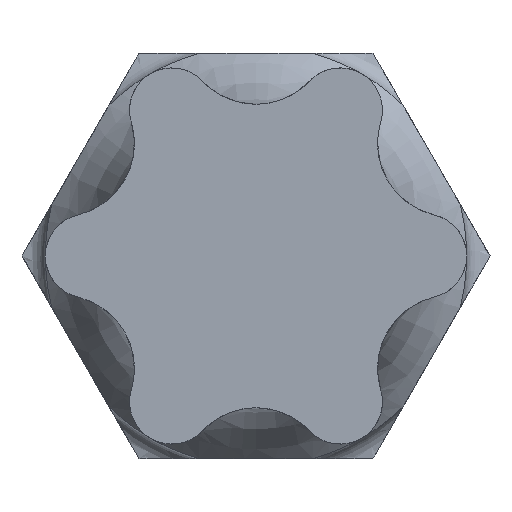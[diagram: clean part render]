
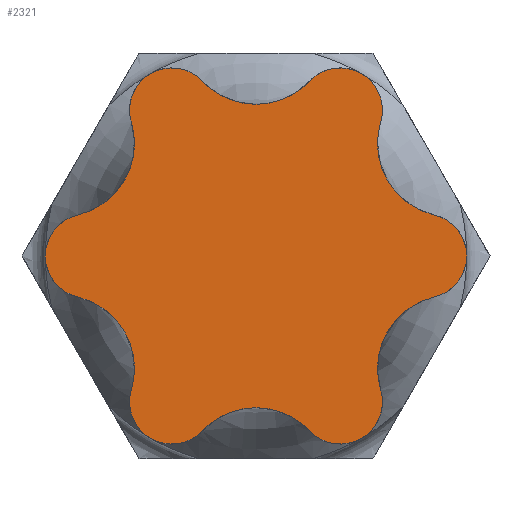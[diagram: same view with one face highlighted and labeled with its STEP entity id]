
A CAD part, left-side view. The second image highlights one B-rep face of the part: STEP entity #2321.
In plain terms, the highlighted planar face has unit normal (-1, 0, 0).
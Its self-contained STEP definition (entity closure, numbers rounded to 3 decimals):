
#172=CARTESIAN_POINT('',(-25.0,2.792,0.642));
#173=VERTEX_POINT('',#172);
#174=CARTESIAN_POINT('',(-25.0,2.792,-0.642));
#175=VERTEX_POINT('',#174);
#176=CARTESIAN_POINT('',(-25.0,2.64,0.0));
#177=DIRECTION('',(-1.0,0.0,0.0));
#178=DIRECTION('',(0.0,0.0,-1.0));
#179=AXIS2_PLACEMENT_3D('',#176,#177,#178);
#180=CIRCLE('',#179,0.66);
#181=EDGE_CURVE('',#173,#175,#180,.T.);
#219=CARTESIAN_POINT('',(-25.0,1.952,-2.097));
#220=VERTEX_POINT('',#219);
#221=CARTESIAN_POINT('',(-25.0,3.059,-1.766));
#222=DIRECTION('',(1.0,0.0,0.0));
#223=DIRECTION('',(0.0,0.0,-1.0));
#224=AXIS2_PLACEMENT_3D('',#221,#222,#223);
#225=CIRCLE('',#224,1.155);
#226=EDGE_CURVE('',#175,#220,#225,.T.);
#269=CARTESIAN_POINT('',(-25.0,0.84,2.739));
#270=VERTEX_POINT('',#269);
#271=CARTESIAN_POINT('',(-25.0,1.952,2.097));
#272=VERTEX_POINT('',#271);
#273=CARTESIAN_POINT('',(-25.0,1.32,2.286));
#274=DIRECTION('',(-1.0,0.0,0.0));
#275=DIRECTION('',(0.0,0.0,-1.0));
#276=AXIS2_PLACEMENT_3D('',#273,#274,#275);
#277=CIRCLE('',#276,0.66);
#278=EDGE_CURVE('',#270,#272,#277,.T.);
#403=CARTESIAN_POINT('',(-25.0,0.84,-2.739));
#404=VERTEX_POINT('',#403);
#405=CARTESIAN_POINT('',(-25.0,1.32,-2.286));
#406=DIRECTION('',(-1.0,0.0,0.0));
#407=DIRECTION('',(0.0,0.0,-1.0));
#408=AXIS2_PLACEMENT_3D('',#405,#406,#407);
#409=CIRCLE('',#408,0.66);
#410=EDGE_CURVE('',#220,#404,#409,.T.);
#461=CARTESIAN_POINT('',(-25.0,-0.84,-2.739));
#462=VERTEX_POINT('',#461);
#463=CARTESIAN_POINT('',(-25.0,0.0,-3.532));
#464=DIRECTION('',(1.0,0.0,0.0));
#465=DIRECTION('',(0.0,0.0,-1.0));
#466=AXIS2_PLACEMENT_3D('',#463,#464,#465);
#467=CIRCLE('',#466,1.155);
#468=EDGE_CURVE('',#404,#462,#467,.T.);
#511=CARTESIAN_POINT('',(-25.0,-1.952,2.097));
#512=VERTEX_POINT('',#511);
#513=CARTESIAN_POINT('',(-25.0,-0.84,2.739));
#514=VERTEX_POINT('',#513);
#515=CARTESIAN_POINT('',(-25.0,-1.32,2.286));
#516=DIRECTION('',(-1.0,0.0,0.0));
#517=DIRECTION('',(0.0,0.0,-1.0));
#518=AXIS2_PLACEMENT_3D('',#515,#516,#517);
#519=CIRCLE('',#518,0.66);
#520=EDGE_CURVE('',#512,#514,#519,.T.);
#560=CARTESIAN_POINT('',(-25.0,-1.952,-2.097));
#561=VERTEX_POINT('',#560);
#562=CARTESIAN_POINT('',(-25.0,-2.792,-0.642));
#563=VERTEX_POINT('',#562);
#564=CARTESIAN_POINT('',(-25.0,-3.059,-1.766));
#565=DIRECTION('',(1.0,0.0,0.0));
#566=DIRECTION('',(0.0,0.0,-1.0));
#567=AXIS2_PLACEMENT_3D('',#564,#565,#566);
#568=CIRCLE('',#567,1.155);
#569=EDGE_CURVE('',#561,#563,#568,.T.);
#619=CARTESIAN_POINT('',(-25.0,-1.32,-2.286));
#620=DIRECTION('',(-1.0,0.0,0.0));
#621=DIRECTION('',(0.0,0.0,-1.0));
#622=AXIS2_PLACEMENT_3D('',#619,#620,#621);
#623=CIRCLE('',#622,0.66);
#624=EDGE_CURVE('',#462,#561,#623,.T.);
#749=CARTESIAN_POINT('',(-25.0,-2.792,0.642));
#750=VERTEX_POINT('',#749);
#751=CARTESIAN_POINT('',(-25.0,-2.64,0.));
#752=DIRECTION('',(-1.0,0.0,0.0));
#753=DIRECTION('',(0.0,0.0,-1.0));
#754=AXIS2_PLACEMENT_3D('',#751,#752,#753);
#755=CIRCLE('',#754,0.66);
#756=EDGE_CURVE('',#563,#750,#755,.T.);
#789=CARTESIAN_POINT('',(-25.0,-3.059,1.766));
#790=DIRECTION('',(1.0,0.0,0.0));
#791=DIRECTION('',(0.0,0.0,-1.0));
#792=AXIS2_PLACEMENT_3D('',#789,#790,#791);
#793=CIRCLE('',#792,1.155);
#794=EDGE_CURVE('',#750,#512,#793,.T.);
#808=CARTESIAN_POINT('',(-25.0,0.,3.532));
#809=DIRECTION('',(1.0,0.0,0.0));
#810=DIRECTION('',(0.0,0.0,-1.0));
#811=AXIS2_PLACEMENT_3D('',#808,#809,#810);
#812=CIRCLE('',#811,1.155);
#813=EDGE_CURVE('',#514,#270,#812,.T.);
#827=CARTESIAN_POINT('',(-25.0,3.059,1.766));
#828=DIRECTION('',(1.0,0.0,0.0));
#829=DIRECTION('',(0.0,0.0,-1.0));
#830=AXIS2_PLACEMENT_3D('',#827,#828,#829);
#831=CIRCLE('',#830,1.155);
#832=EDGE_CURVE('',#272,#173,#831,.T.);
#2302=CARTESIAN_POINT('',(-25.0,1.65,0.0));
#2303=DIRECTION('',(-1.0,0.0,0.0));
#2304=DIRECTION('',(0.0,-1.0,0.0));
#2305=AXIS2_PLACEMENT_3D('',#2302,#2303,#2304);
#2306=PLANE('',#2305);
#2307=ORIENTED_EDGE('',*,*,#756,.T.);
#2308=ORIENTED_EDGE('',*,*,#794,.T.);
#2309=ORIENTED_EDGE('',*,*,#520,.T.);
#2310=ORIENTED_EDGE('',*,*,#813,.T.);
#2311=ORIENTED_EDGE('',*,*,#278,.T.);
#2312=ORIENTED_EDGE('',*,*,#832,.T.);
#2313=ORIENTED_EDGE('',*,*,#181,.T.);
#2314=ORIENTED_EDGE('',*,*,#226,.T.);
#2315=ORIENTED_EDGE('',*,*,#410,.T.);
#2316=ORIENTED_EDGE('',*,*,#468,.T.);
#2317=ORIENTED_EDGE('',*,*,#624,.T.);
#2318=ORIENTED_EDGE('',*,*,#569,.T.);
#2319=EDGE_LOOP('',(#2307,#2308,#2309,#2310,#2311,#2312,#2313,#2314,#2315,#2316,#2317,#2318));
#2320=FACE_OUTER_BOUND('',#2319,.T.);
#2321=ADVANCED_FACE('',(#2320),#2306,.T.);
